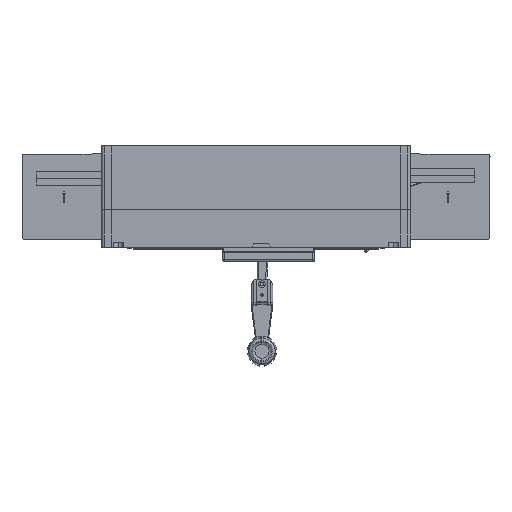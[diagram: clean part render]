
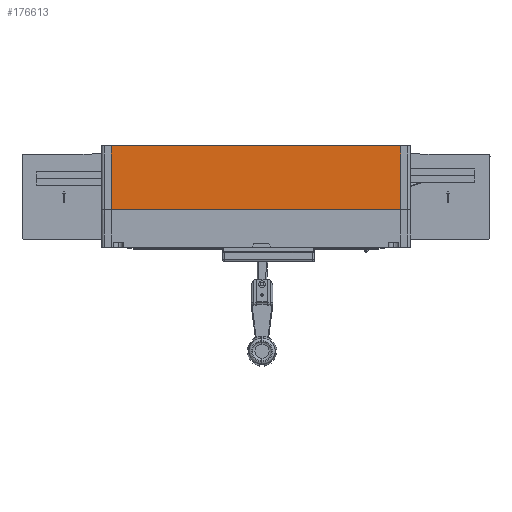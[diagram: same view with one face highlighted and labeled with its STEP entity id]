
A CAD part, front view. The second image highlights one B-rep face of the part: STEP entity #176613.
In plain terms, the highlighted planar face has unit normal (0, -1, 0).
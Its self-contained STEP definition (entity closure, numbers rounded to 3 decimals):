
#167951=DIRECTION('',(1.,0.,0.));
#167952=VECTOR('',#167951,347.);
#167953=CARTESIAN_POINT('',(-68.127,-290.255,
0.064));
#167954=LINE('',#167953,#167952);
#168807=DIRECTION('',(-1.,0.,0.));
#168808=VECTOR('',#168807,347.265);
#168809=CARTESIAN_POINT('',(279.006,-290.255,
-75.936));
#168810=LINE('',#168809,#168808);
#169638=DIRECTION('',(-0.002,0.,1.));
#169639=VECTOR('',#169638,76.);
#169640=CARTESIAN_POINT('',(279.006,-290.255,
-75.936));
#169641=LINE('',#169640,#169639);
#169642=DIRECTION('',(-0.002,0.,-1.));
#169643=VECTOR('',#169642,76.);
#169644=CARTESIAN_POINT('',(-68.127,-290.255,
0.064));
#169645=LINE('',#169644,#169643);
#172749=CARTESIAN_POINT('',(-68.127,-290.255,
0.064));
#172751=VERTEX_POINT('',#172749);
#173013=CARTESIAN_POINT('',(-68.259,-290.255,
-75.936));
#173015=VERTEX_POINT('',#173013);
#173249=CARTESIAN_POINT('',(279.006,-290.255,
-75.936));
#173250=CARTESIAN_POINT('',(278.873,-290.255,
0.064));
#173251=VERTEX_POINT('',#173249);
#173252=VERTEX_POINT('',#173250);
#176601=CARTESIAN_POINT('',(104.873,-290.255,
0.064));
#176602=DIRECTION('',(0.,-1.,0.));
#176603=DIRECTION('',(0.,0.,1.));
#176604=AXIS2_PLACEMENT_3D('',#176601,#176602,#176603);
#176605=PLANE('',#176604);
#176607=ORIENTED_EDGE('',*,*,#176606,.F.);
#176608=ORIENTED_EDGE('',*,*,#175072,.T.);
#176609=ORIENTED_EDGE('',*,*,#176596,.F.);
#176610=ORIENTED_EDGE('',*,*,#174482,.T.);
#176611=EDGE_LOOP('',(#176607,#176608,#176609,#176610));
#176612=FACE_OUTER_BOUND('',#176611,.F.);
#176613=ADVANCED_FACE('',(#176612),#176605,.T.);
#174482=EDGE_CURVE('',#172751,#173252,#167954,.T.);
#175072=EDGE_CURVE('',#173251,#173015,#168810,.T.);
#176596=EDGE_CURVE('',#172751,#173015,#169645,.T.);
#176606=EDGE_CURVE('',#173251,#173252,#169641,.T.);
